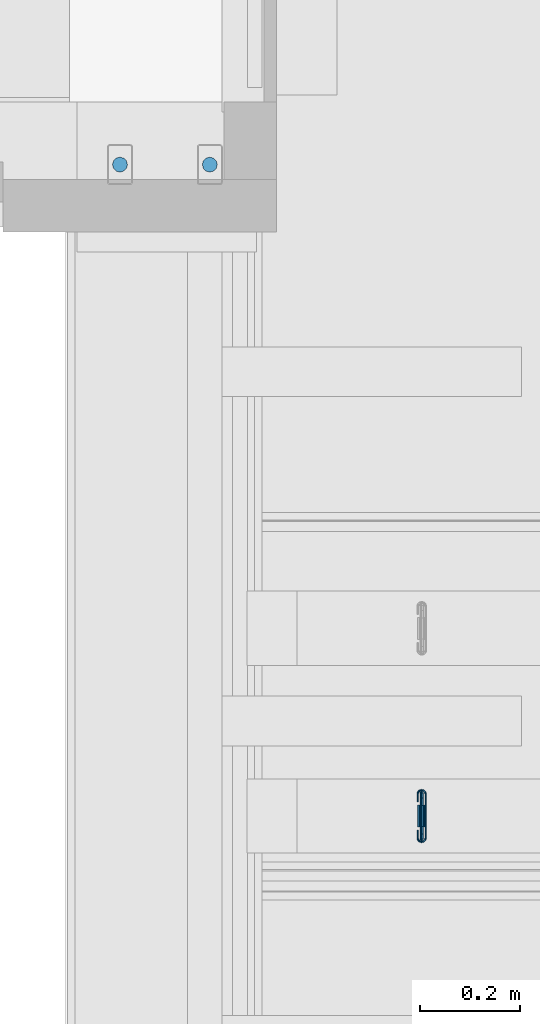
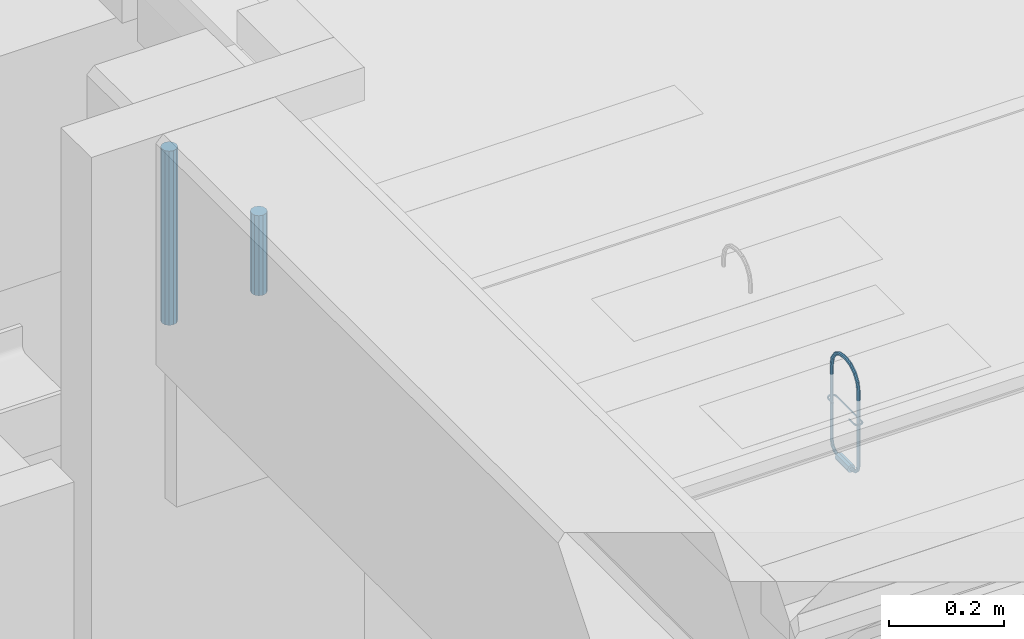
# One storey, part 145 of 230: 3 beams.
"""IFC4X3_ADD2 building model written with IfcOpenShell, lengths in millimetres."""

from ifc_helpers import new_model, si_unit, direction, origin_with_axes, place, context, subcontext, project, spatial, triangles, polygons, element, save


model = new_model("IFC4X3_ADD2")

# Units and contexts
model_context = context("Model", 3, precision=1e-05, world=origin_with_axes(), true_north=direction((0.0, 1.0)))
body_context = subcontext(model_context, "Body", "Model", "MODEL_VIEW")
ifc_project = project(units=[si_unit("LENGTHUNIT", "METRE", prefix="MILLI"), si_unit("AREAUNIT", "SQUARE_METRE"), si_unit("VOLUMEUNIT", "CUBIC_METRE"), si_unit("PLANEANGLEUNIT", "RADIAN"), si_unit("TIMEUNIT", "SECOND"), si_unit("MASSUNIT", "GRAM")], contexts=[model_context])

# Site, building, storey
site_placement = place(None, origin_with_axes())
site = spatial("IfcSite", under=ifc_project, at=site_placement, Name="Site", CompositionType="ELEMENT")
building_placement = place(site_placement, origin_with_axes())
building = spatial("IfcBuilding", under=site, at=building_placement, Name="IFC Building Story")
storey_placement = place(building_placement, origin_with_axes())
storey = spatial("IfcBuildingStorey", under=building, at=storey_placement, Name="ETAGE 00 (0)", Elevation=0.0)

# Beams
beam_1_placement = place(storey_placement, origin_with_axes())
element("IfcBeam", 1, at=beam_1_placement, inside=storey, Name="LU2", ObjectType="D7", context=body_context, shape_type="Tessellation", body=[
    triangles([(33918.16688232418, -1404.499736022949, 4036.025157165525), (33918.16688232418, -1407.999813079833, 4036.025157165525), (33915.69261474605, -1404.499736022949, 4034.999929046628), (33915.69261474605, -1407.999813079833, 4034.999929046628), (33919.19240112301, -1404.499736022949, 4038.500006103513), (33919.19240112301, -1407.999813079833, 4038.500006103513), (33918.16688232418, -1407.999813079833, 4040.974855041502), (33918.16688232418, -1404.499736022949, 4040.974855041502), (33915.69261474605, -1407.999813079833, 4042.000083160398), (33915.69261474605, -1404.499736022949, 4042.000083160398), (33913.21834716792, -1407.999813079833, 4040.974855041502), (33913.21834716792, -1404.499736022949, 4040.974855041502), (33912.19282836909, -1407.999813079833, 4038.500006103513), (33912.19282836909, -1404.499736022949, 4038.500006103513), (33913.21834716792, -1404.499736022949, 4036.025157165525), (33913.21834716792, -1407.999813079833, 4036.025157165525), (33915.69261474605, -1392.249757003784, 4038.282286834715), (33913.21834716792, -1392.762371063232, 4039.170023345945), (33915.69261474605, -1383.282135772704, 4047.250053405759), (33913.21834716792, -1384.169872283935, 4047.762522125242), (33918.16688232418, -1384.169872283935, 4047.762522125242), (33918.16688232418, -1392.762371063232, 4039.170023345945), (33919.19240112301, -1386.313200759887, 4048.999946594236), (33919.19240112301, -1393.999795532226, 4041.313497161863), (33918.16688232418, -1395.23722000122, 4043.456680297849), (33918.16688232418, -1388.456529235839, 4050.237371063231), (33915.69261474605, -1395.749688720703, 4044.34441680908), (33915.69261474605, -1389.34426574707, 4050.750130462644), (33913.21834716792, -1388.456529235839, 4050.237371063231), (33913.21834716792, -1395.23722000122, 4043.456680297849), (33912.19282836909, -1386.313200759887, 4048.999946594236), (33912.19282836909, -1393.999795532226, 4041.313497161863), (33913.21834716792, -1381.024860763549, 4059.499887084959), (33912.19282836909, -1383.499709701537, 4059.499887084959), (33915.69261474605, -1379.999777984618, 4059.499887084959), (33918.16688232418, -1381.024860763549, 4059.499887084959), (33919.19240112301, -1383.499709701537, 4059.499887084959), (33918.16688232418, -1385.974558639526, 4059.499887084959), (33915.69261474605, -1386.999786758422, 4059.499887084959), (33913.21834716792, -1385.974558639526, 4059.499887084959), (33913.21834716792, -1385.974558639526, 4218.50006561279), (33912.19282836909, -1383.499709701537, 4218.50006561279), (33913.21834716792, -1389.059399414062, 4234.008421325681), (33912.19282836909, -1386.772911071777, 4234.955456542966), (33913.21834716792, -1397.844182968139, 4247.155583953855), (33912.19282836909, -1396.094144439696, 4248.905477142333), (33913.21834716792, -1394.344105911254, 4250.65566101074), (33913.21834716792, -1384.486422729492, 4235.902491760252), (33915.69261474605, -1393.619295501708, 4251.38032608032), (33915.69261474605, -1383.539387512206, 4236.294909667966), (33918.16688232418, -1394.344105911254, 4250.65566101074), (33918.16688232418, -1384.486422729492, 4235.902491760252), (33919.19240112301, -1396.094144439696, 4248.905477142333), (33919.19240112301, -1386.772911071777, 4234.955456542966), (33918.16688232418, -1389.059399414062, 4234.008421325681), (33918.16688232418, -1397.844182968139, 4247.155583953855), (33915.69261474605, -1390.006579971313, 4233.616003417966), (33915.69261474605, -1398.568993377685, 4246.430628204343), (33915.69261474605, -1411.383763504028, 4254.993186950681), (33913.21834716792, -1410.991490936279, 4255.940222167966), (33912.19282836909, -1410.044310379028, 4258.226710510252), (33913.21834716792, -1409.097275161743, 4260.513198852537), (33915.69261474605, -1408.705002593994, 4261.460524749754), (33918.16688232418, -1409.097275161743, 4260.513198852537), (33919.19240112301, -1410.044310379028, 4258.226710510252), (33918.16688232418, -1410.991490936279, 4255.940222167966), (33918.16688232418, -1426.499701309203, 4259.025208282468), (33915.69261474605, -1426.499701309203, 4257.999980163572), (33913.21834716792, -1426.499701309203, 4259.025208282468), (33912.19282836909, -1426.499701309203, 4261.500057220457), (33913.21834716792, -1426.499701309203, 4263.974906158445), (33915.69261474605, -1426.499701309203, 4265.000134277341), (33918.16688232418, -1426.499701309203, 4263.974906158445), (33919.19240112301, -1426.499701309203, 4261.500057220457), (33919.19240112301, -1433.499710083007, 4261.500057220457), (33918.16688232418, -1433.499710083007, 4259.025208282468), (33919.19240112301, -1449.955101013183, 4258.226710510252), (33918.16688232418, -1449.008065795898, 4255.940222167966), (33919.19240112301, -1463.90541229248, 4248.905477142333), (33918.16688232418, -1462.155373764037, 4247.155583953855), (33915.69261474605, -1448.615793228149, 4254.993186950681), (33915.69261474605, -1461.430418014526, 4246.430628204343), (33913.21834716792, -1462.155373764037, 4247.155583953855), (33913.21834716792, -1449.008065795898, 4255.940222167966), (33912.19282836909, -1463.90541229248, 4248.905477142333), (33912.19282836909, -1449.955101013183, 4258.226710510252), (33913.21834716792, -1465.655305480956, 4250.65566101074), (33913.21834716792, -1450.902281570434, 4260.513198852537), (33915.69261474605, -1466.380261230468, 4251.38032608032), (33915.69261474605, -1451.294554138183, 4261.460524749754), (33918.16688232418, -1465.655305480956, 4250.65566101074), (33918.16688232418, -1450.902281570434, 4260.513198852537), (33919.19240112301, -1473.226500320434, 4234.955456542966), (33918.16688232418, -1475.512988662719, 4235.902491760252), (33918.16688232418, -1470.940157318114, 4234.008421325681), (33915.69261474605, -1469.992976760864, 4233.616003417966), (33913.21834716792, -1470.940157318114, 4234.008421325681), (33912.19282836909, -1473.226500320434, 4234.955456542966), (33913.21834716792, -1475.512988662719, 4235.902491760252), (33915.69261474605, -1476.46016921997, 4236.294909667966), (33918.16688232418, -1478.974695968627, 4218.50006561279), (33915.69261474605, -1479.999778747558, 4218.50006561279), (33919.19240112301, -1476.499701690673, 4218.50006561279), (33918.16688232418, -1474.024852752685, 4218.50006561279), (33915.69261474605, -1472.999769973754, 4218.50006561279), (33913.21834716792, -1474.024852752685, 4218.50006561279), (33912.19282836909, -1476.499701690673, 4218.50006561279), (33913.21834716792, -1478.974695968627, 4218.50006561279), (33915.69261474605, -1479.999778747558, 4059.499887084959), (33913.21834716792, -1478.974695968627, 4059.499887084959), (33915.69261474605, -1476.717420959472, 4047.250053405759), (33913.21834716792, -1475.829539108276, 4047.762522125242), (33915.69261474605, -1467.749799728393, 4038.282286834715), (33913.21834716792, -1467.237185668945, 4039.170023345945), (33918.16688232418, -1467.237185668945, 4039.170023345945), (33918.16688232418, -1475.829539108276, 4047.762522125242), (33919.19240112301, -1465.999761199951, 4041.313497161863), (33919.19240112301, -1473.686355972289, 4048.999946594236), (33918.16688232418, -1471.543027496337, 4050.237371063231), (33918.16688232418, -1464.762336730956, 4043.456680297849), (33915.69261474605, -1470.655145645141, 4050.750130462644), (33915.69261474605, -1464.249722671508, 4044.34441680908), (33913.21834716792, -1464.762336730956, 4043.456680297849), (33913.21834716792, -1471.543027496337, 4050.237371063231), (33912.19282836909, -1465.999761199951, 4041.313497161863), (33912.19282836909, -1473.686355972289, 4048.999946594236), (33913.21834716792, -1455.499820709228, 4036.025157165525), (33912.19282836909, -1455.499820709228, 4038.500006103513), (33915.69261474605, -1455.499820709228, 4034.999929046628), (33918.16688232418, -1455.499820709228, 4036.025157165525), (33919.19240112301, -1455.499820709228, 4038.500006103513), (33918.16688232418, -1455.499820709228, 4040.974855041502), (33915.69261474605, -1455.499820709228, 4042.000083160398), (33913.21834716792, -1455.499820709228, 4040.974855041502), (33913.21834716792, -1451.999743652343, 4040.974855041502), (33912.19282836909, -1451.999743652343, 4038.500006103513), (33915.69261474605, -1451.999743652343, 4042.000083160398), (33918.16688232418, -1451.999743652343, 4040.974855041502), (33919.19240112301, -1451.999743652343, 4038.500006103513), (33918.16688232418, -1451.999743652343, 4036.025157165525), (33915.69261474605, -1451.999743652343, 4034.999929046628), (33913.21834716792, -1451.999743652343, 4036.025157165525), (33907.6931030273, -1451.999743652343, 4038.500006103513), (33915.69261474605, -1451.999743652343, 4030.4999130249), (33921.34808349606, -1451.999743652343, 4032.843083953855), (33923.6921264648, -1451.999743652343, 4038.500006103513), (33910.0348205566, -1451.999743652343, 4032.843083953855), (33921.34808349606, -1451.999743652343, 4044.156928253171), (33915.69261474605, -1451.999743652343, 4046.500099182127), (33910.0348205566, -1451.999743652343, 4044.156928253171), (33921.34808349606, -1407.999813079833, 4032.843083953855), (33915.69261474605, -1407.999813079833, 4030.4999130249), (33923.6921264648, -1407.999813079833, 4038.500006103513), (33921.34808349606, -1407.999813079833, 4044.156928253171), (33915.69261474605, -1407.999813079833, 4046.500099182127), (33910.0348205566, -1407.999813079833, 4044.156928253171), (33907.6931030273, -1407.999813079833, 4038.500006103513), (33910.0348205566, -1407.999813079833, 4032.843083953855), (33912.19282836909, -1476.499701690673, 4059.499887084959), (33913.21834716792, -1474.024852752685, 4059.499887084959), (33915.69261474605, -1472.999769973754, 4059.499887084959), (33918.16688232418, -1474.024852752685, 4059.499887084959), (33919.19240112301, -1476.499701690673, 4059.499887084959), (33918.16688232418, -1478.974695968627, 4059.499887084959), (33918.16688232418, -1433.499710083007, 4263.974906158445), (33915.69261474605, -1433.499710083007, 4265.000134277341), (33913.21834716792, -1433.499710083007, 4263.974906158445), (33912.19282836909, -1433.499710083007, 4261.500057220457), (33913.21834716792, -1433.499710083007, 4259.025208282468), (33915.69261474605, -1433.499710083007, 4257.999980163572), (33915.69261474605, -1386.999786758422, 4218.50006561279), (33918.16688232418, -1385.974558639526, 4218.50006561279), (33919.19240112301, -1383.499709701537, 4218.50006561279), (33918.16688232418, -1381.024860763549, 4218.50006561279), (33915.69261474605, -1379.999777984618, 4218.50006561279), (33913.21834716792, -1381.024860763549, 4218.50006561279), (33909.5929870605, -1385.939822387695, 4149.999886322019), (33909.5929870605, -1401.999743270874, 4149.999886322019), (33908.64188232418, -1385.939822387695, 4148.354637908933), (33908.64188232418, -1401.999743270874, 4148.354637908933), (33910.38828735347, -1382.969800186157, 4149.999886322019), (33909.56508178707, -1382.49468383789, 4148.354637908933), (33912.08818359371, -1379.972890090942, 4148.354637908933), (33912.56257324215, -1380.795514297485, 4149.999886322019), (33912.08818359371, -1379.972890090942, 4151.645425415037), (33909.56508178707, -1382.49468383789, 4151.645425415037), (33915.53215942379, -1379.049690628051, 4151.645425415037), (33915.53215942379, -1377.149806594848, 4151.645425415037), (33911.13707885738, -1378.327350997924, 4151.645425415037), (33906.74199829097, -1474.059734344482, 4151.645425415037), (33909.56508178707, -1477.504727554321, 4151.645425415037), (33908.64188232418, -1474.059734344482, 4151.645425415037), (33906.74199829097, -1457.999813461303, 4151.645425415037), (33907.92099609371, -1478.454814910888, 4151.645425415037), (33908.64188232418, -1457.999813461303, 4151.645425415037), (33911.13707885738, -1481.672060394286, 4151.645425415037), (33915.53215942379, -1480.94972076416, 4151.645425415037), (33912.08818359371, -1480.026666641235, 4151.645425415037), (33915.53215942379, -1482.849750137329, 4151.645425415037), (33906.74199829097, -1385.939822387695, 4151.645425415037), (33907.92099609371, -1381.544741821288, 4151.645425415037), (33906.74199829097, -1401.999743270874, 4151.645425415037), (33908.64188232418, -1385.939822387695, 4151.645425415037), (33908.64188232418, -1401.999743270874, 4151.645425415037), (33919.2970458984, -1480.026666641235, 4151.645425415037), (33920.24815063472, -1481.672060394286, 4151.645425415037), (33923.46423339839, -1478.454814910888, 4151.645425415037), (33915.85307006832, -1482.849750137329, 4151.645425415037), (33915.85307006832, -1480.94972076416, 4151.645425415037), (33921.82014770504, -1477.504727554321, 4151.645425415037), (33924.64323120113, -1474.059734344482, 4151.645425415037), (33922.74334716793, -1474.059734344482, 4151.645425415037), (33922.74334716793, -1385.939822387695, 4151.645425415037), (33920.24815063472, -1378.327350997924, 4151.645425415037), (33919.2970458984, -1379.972890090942, 4151.645425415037), (33923.46423339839, -1381.544741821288, 4151.645425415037), (33915.85307006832, -1377.149806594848, 4151.645425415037), (33915.85307006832, -1379.049690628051, 4151.645425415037), (33924.64323120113, -1385.939822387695, 4151.645425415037), (33921.82014770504, -1382.49468383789, 4151.645425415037), (33906.74199829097, -1457.999813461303, 4148.354637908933), (33908.64188232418, -1457.999813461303, 4148.354637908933), (33909.5929870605, -1457.999813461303, 4149.999886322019), (33905.7932189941, -1457.999813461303, 4149.999886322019), (33909.5929870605, -1474.059734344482, 4149.999886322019), (33908.64188232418, -1474.059734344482, 4148.354637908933), (33911.13707885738, -1481.672060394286, 4148.354637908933), (33915.53215942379, -1480.94972076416, 4148.354637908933), (33915.53215942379, -1482.849750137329, 4148.354637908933), (33906.74199829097, -1385.939822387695, 4148.354637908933), (33906.74199829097, -1401.999743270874, 4148.354637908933), (33907.92099609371, -1381.544741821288, 4148.354637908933), (33911.13707885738, -1378.327350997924, 4148.354637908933), (33915.53215942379, -1379.049690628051, 4148.354637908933), (33915.53215942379, -1377.149806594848, 4148.354637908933), (33906.74199829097, -1474.059734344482, 4148.354637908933), (33909.56508178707, -1477.504727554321, 4148.354637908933), (33907.92099609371, -1478.454814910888, 4148.354637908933), (33912.08818359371, -1480.026666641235, 4148.354637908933), (33919.2970458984, -1379.972890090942, 4148.354637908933), (33920.24815063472, -1378.327350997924, 4148.354637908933), (33923.46423339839, -1381.544741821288, 4148.354637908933), (33915.85307006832, -1377.149806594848, 4148.354637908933), (33915.85307006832, -1379.049690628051, 4148.354637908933), (33921.82014770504, -1382.49468383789, 4148.354637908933), (33924.64323120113, -1385.939822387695, 4148.354637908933), (33922.74334716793, -1385.939822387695, 4148.354637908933), (33922.74334716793, -1474.059734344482, 4148.354637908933), (33920.24815063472, -1481.672060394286, 4148.354637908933), (33919.2970458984, -1480.026666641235, 4148.354637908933), (33923.46423339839, -1478.454814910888, 4148.354637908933), (33915.85307006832, -1482.849750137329, 4148.354637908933), (33915.85307006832, -1480.94972076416, 4148.354637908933), (33924.64323120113, -1474.059734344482, 4148.354637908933), (33921.82014770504, -1477.504727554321, 4148.354637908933), (33905.7932189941, -1474.059734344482, 4149.999886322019), (33907.0977905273, -1478.929785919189, 4149.999886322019), (33910.66268920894, -1482.494829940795, 4149.999886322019), (33915.53215942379, -1483.79969215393, 4149.999886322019), (33915.85307006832, -1483.79969215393, 4149.999886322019), (33920.72254028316, -1482.494829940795, 4149.999886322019), (33924.28743896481, -1478.929785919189, 4149.999886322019), (33925.59201049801, -1474.059734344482, 4149.999886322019), (33925.59201049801, -1385.939822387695, 4149.999886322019), (33924.28743896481, -1381.069770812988, 4149.999886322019), (33920.72254028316, -1377.504726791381, 4149.999886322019), (33915.85307006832, -1376.199719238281, 4149.999886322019), (33915.53215942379, -1376.199719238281, 4149.999886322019), (33910.66268920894, -1377.504726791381, 4149.999886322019), (33907.0977905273, -1381.069770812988, 4149.999886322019), (33905.7932189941, -1385.939822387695, 4149.999886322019), (33905.7932189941, -1401.999743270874, 4149.999886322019), (33915.53215942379, -1379.999777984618, 4149.999886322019), (33915.85307006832, -1379.999777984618, 4149.999886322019), (33918.82265624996, -1380.795514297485, 4149.999886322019), (33920.99694213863, -1382.969800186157, 4149.999886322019), (33921.7922424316, -1385.939822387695, 4149.999886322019), (33921.7922424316, -1474.059734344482, 4149.999886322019), (33920.99694213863, -1477.02975654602, 4149.999886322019), (33918.82265624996, -1479.203897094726, 4149.999886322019), (33915.85307006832, -1479.999778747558, 4149.999886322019), (33915.53215942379, -1479.999778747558, 4149.999886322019), (33912.56257324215, -1479.203897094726, 4149.999886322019), (33910.38828735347, -1477.02975654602, 4149.999886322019)], [[1, 2, 3], [4, 3, 2], [5, 6, 1], [2, 1, 6], [6, 5, 7], [8, 7, 5], [7, 8, 9], [10, 9, 8], [9, 10, 11], [12, 11, 10], [11, 12, 13], [14, 13, 12], [15, 16, 14], [13, 14, 16], [3, 4, 15], [16, 15, 4], [17, 3, 18], [15, 18, 3], [19, 17, 20], [18, 20, 17], [21, 22, 17], [17, 19, 21], [23, 24, 22], [22, 21, 23], [24, 23, 25], [26, 25, 23], [25, 26, 27], [28, 27, 26], [27, 28, 29], [29, 30, 27], [30, 29, 31], [31, 32, 30], [20, 18, 31], [32, 31, 18], [33, 20, 34], [31, 34, 20], [35, 19, 33], [20, 33, 19], [36, 21, 19], [19, 35, 36], [37, 23, 21], [21, 36, 37], [23, 37, 26], [38, 26, 37], [26, 38, 28], [39, 28, 38], [28, 39, 40], [40, 29, 28], [29, 40, 34], [34, 31, 29], [40, 41, 42], [42, 34, 40], [41, 43, 44], [44, 42, 41], [43, 45, 46], [46, 44, 43], [47, 48, 46], [44, 46, 48], [49, 50, 47], [48, 47, 50], [51, 52, 50], [50, 49, 51], [53, 54, 52], [52, 51, 53], [54, 53, 55], [56, 55, 53], [55, 56, 57], [58, 57, 56], [57, 58, 45], [45, 43, 57], [58, 59, 60], [60, 45, 58], [45, 60, 61], [61, 46, 45], [62, 47, 61], [46, 61, 47], [63, 49, 62], [47, 62, 49], [64, 51, 49], [49, 63, 64], [65, 53, 51], [51, 64, 65], [53, 65, 56], [66, 56, 65], [56, 66, 58], [59, 58, 66], [66, 67, 59], [68, 59, 67], [59, 68, 69], [69, 60, 59], [60, 69, 70], [70, 61, 60], [71, 62, 70], [61, 70, 62], [72, 63, 71], [62, 71, 63], [73, 64, 63], [63, 72, 73], [74, 65, 64], [64, 73, 74], [65, 74, 66], [67, 66, 74], [74, 75, 67], [76, 67, 75], [75, 77, 76], [78, 76, 77], [77, 79, 78], [80, 78, 79], [78, 80, 81], [82, 81, 80], [81, 82, 83], [83, 84, 81], [84, 83, 85], [85, 86, 84], [87, 88, 85], [86, 85, 88], [89, 90, 87], [88, 87, 90], [91, 92, 90], [90, 89, 91], [79, 77, 92], [92, 91, 79], [93, 79, 91], [91, 94, 93], [79, 93, 80], [95, 80, 93], [80, 95, 82], [96, 82, 95], [82, 96, 97], [97, 83, 82], [83, 97, 98], [98, 85, 83], [99, 87, 98], [85, 98, 87], [100, 89, 99], [87, 99, 89], [94, 91, 89], [89, 100, 94], [101, 94, 100], [100, 102, 101], [103, 93, 94], [94, 101, 103], [93, 103, 95], [104, 95, 103], [95, 104, 96], [105, 96, 104], [96, 105, 106], [106, 97, 96], [97, 106, 107], [107, 98, 97], [108, 99, 107], [98, 107, 99], [102, 100, 108], [99, 108, 100], [109, 102, 110], [108, 110, 102], [111, 109, 112], [110, 112, 109], [113, 111, 114], [112, 114, 111], [115, 116, 111], [111, 113, 115], [117, 118, 116], [116, 115, 117], [118, 117, 119], [120, 119, 117], [119, 120, 121], [122, 121, 120], [121, 122, 123], [123, 124, 121], [124, 123, 125], [125, 126, 124], [114, 112, 125], [126, 125, 112], [127, 114, 128], [125, 128, 114], [129, 113, 127], [114, 127, 113], [130, 115, 113], [113, 129, 130], [131, 117, 115], [115, 130, 131], [117, 131, 120], [132, 120, 131], [120, 132, 122], [133, 122, 132], [122, 133, 134], [134, 123, 122], [123, 134, 128], [128, 125, 123], [134, 135, 136], [136, 128, 134], [133, 137, 134], [135, 134, 137], [132, 138, 137], [137, 133, 132], [131, 139, 132], [138, 132, 139], [139, 131, 130], [130, 140, 139], [140, 130, 141], [129, 141, 130], [141, 129, 127], [127, 142, 141], [142, 127, 136], [128, 136, 127], [142, 136, 143], [140, 141, 144], [144, 145, 140], [146, 139, 140], [146, 140, 145], [147, 141, 142], [141, 147, 144], [142, 143, 147], [148, 139, 146], [138, 149, 137], [138, 139, 148], [148, 149, 138], [150, 143, 136], [136, 135, 150], [137, 150, 135], [150, 137, 149], [151, 145, 152], [144, 152, 145], [153, 146, 151], [145, 151, 146], [146, 153, 148], [154, 148, 153], [148, 154, 149], [155, 149, 154], [149, 155, 150], [156, 150, 155], [150, 156, 143], [157, 143, 156], [158, 147, 157], [143, 157, 147], [152, 144, 158], [147, 158, 144], [11, 13, 157], [7, 9, 155], [155, 154, 7], [153, 6, 7], [153, 7, 154], [156, 9, 11], [9, 156, 155], [11, 157, 156], [151, 6, 153], [2, 152, 4], [2, 6, 151], [151, 152, 2], [158, 157, 13], [13, 16, 158], [4, 158, 16], [158, 4, 152], [112, 110, 126], [159, 126, 110], [160, 124, 126], [126, 159, 160], [161, 121, 124], [124, 160, 161], [162, 119, 161], [121, 161, 119], [163, 118, 162], [119, 162, 118], [118, 163, 164], [164, 116, 118], [116, 164, 109], [109, 111, 116], [164, 101, 102], [102, 109, 164], [163, 103, 164], [101, 164, 103], [103, 163, 104], [162, 104, 163], [104, 162, 105], [161, 105, 162], [105, 161, 160], [160, 106, 105], [106, 160, 159], [159, 107, 106], [110, 108, 107], [107, 159, 110], [77, 75, 165], [165, 92, 77], [92, 165, 166], [166, 90, 92], [90, 166, 88], [167, 88, 166], [88, 167, 86], [168, 86, 167], [169, 84, 86], [86, 168, 169], [170, 81, 84], [84, 169, 170], [76, 78, 170], [81, 170, 78], [67, 76, 68], [170, 68, 76], [68, 170, 169], [169, 69, 68], [69, 169, 168], [168, 70, 69], [167, 71, 70], [70, 168, 167], [166, 72, 71], [71, 167, 166], [165, 73, 166], [72, 166, 73], [75, 74, 165], [73, 165, 74], [171, 57, 43], [43, 41, 171], [172, 55, 171], [57, 171, 55], [173, 54, 172], [55, 172, 54], [54, 173, 174], [174, 52, 54], [52, 174, 175], [175, 50, 52], [50, 175, 48], [176, 48, 175], [48, 176, 44], [42, 44, 176], [176, 33, 34], [34, 42, 176], [175, 35, 176], [33, 176, 35], [174, 36, 35], [35, 175, 174], [173, 37, 174], [36, 174, 37], [37, 173, 38], [172, 38, 173], [38, 172, 39], [171, 39, 172], [39, 171, 41], [41, 40, 39], [18, 15, 32], [14, 32, 15], [12, 30, 32], [32, 14, 12], [10, 27, 30], [30, 12, 10], [8, 25, 10], [27, 10, 25], [5, 24, 8], [25, 8, 24], [24, 5, 1], [1, 22, 24], [22, 1, 3], [3, 17, 22], [177, 178, 179], [180, 179, 178], [181, 177, 179], [179, 182, 181], [183, 184, 181], [181, 182, 183], [184, 185, 181], [186, 181, 185], [187, 188, 189], [190, 191, 192], [190, 192, 193], [190, 194, 191], [195, 193, 192], [196, 197, 198], [198, 191, 194], [199, 197, 196], [196, 198, 194], [200, 186, 201], [202, 203, 200], [204, 203, 202], [200, 203, 186], [185, 189, 201], [201, 186, 185], [189, 185, 187], [205, 206, 207], [197, 199, 208], [208, 209, 197], [209, 206, 205], [206, 209, 208], [210, 207, 211], [207, 210, 205], [212, 211, 213], [211, 212, 210], [214, 215, 216], [217, 188, 187], [187, 218, 217], [218, 215, 214], [214, 217, 218], [213, 219, 220], [219, 213, 211], [220, 216, 215], [216, 220, 219], [195, 221, 193], [222, 195, 223], [193, 221, 224], [195, 222, 221], [223, 225, 226], [226, 222, 223], [227, 228, 229], [230, 182, 179], [230, 179, 231], [230, 232, 182], [180, 231, 179], [233, 234, 183], [183, 182, 232], [235, 234, 233], [233, 183, 232], [236, 237, 238], [221, 226, 236], [222, 226, 221], [236, 226, 237], [239, 227, 238], [238, 237, 239], [227, 239, 228], [240, 241, 242], [243, 234, 235], [243, 244, 234], [244, 243, 241], [240, 244, 241], [245, 242, 246], [242, 245, 240], [247, 246, 248], [246, 247, 245], [249, 250, 251], [252, 229, 228], [228, 253, 252], [253, 250, 249], [249, 252, 253], [248, 254, 255], [254, 248, 246], [255, 251, 250], [251, 255, 254], [221, 236, 256], [256, 224, 221], [190, 193, 256], [224, 256, 193], [257, 194, 256], [190, 256, 194], [238, 257, 256], [256, 236, 238], [227, 258, 238], [257, 238, 258], [258, 196, 194], [194, 257, 258], [259, 199, 196], [196, 258, 259], [260, 208, 259], [199, 259, 208], [261, 206, 260], [208, 260, 206], [249, 261, 260], [260, 252, 249], [252, 260, 259], [259, 229, 252], [229, 259, 227], [258, 227, 259], [251, 262, 261], [261, 249, 251], [262, 207, 261], [206, 261, 207], [263, 211, 207], [207, 262, 263], [263, 264, 211], [219, 211, 264], [219, 264, 216], [265, 216, 264], [264, 246, 242], [242, 265, 264], [264, 263, 254], [254, 246, 264], [254, 263, 251], [262, 251, 263], [265, 242, 266], [241, 266, 242], [216, 265, 266], [266, 214, 216], [214, 266, 267], [267, 217, 214], [217, 267, 268], [268, 188, 217], [188, 268, 189], [269, 189, 268], [268, 235, 233], [233, 269, 268], [267, 243, 268], [235, 268, 243], [266, 241, 267], [243, 267, 241], [269, 233, 232], [232, 270, 269], [189, 269, 201], [270, 201, 269], [201, 270, 271], [271, 200, 201], [202, 200, 272], [271, 272, 200], [202, 180, 204], [231, 202, 272], [204, 180, 178], [202, 231, 180], [230, 231, 271], [272, 271, 231], [270, 232, 271], [230, 271, 232], [178, 177, 203], [203, 204, 178], [177, 181, 203], [186, 203, 181], [234, 273, 184], [184, 183, 234], [273, 187, 184], [185, 184, 187], [274, 218, 273], [187, 273, 218], [275, 215, 218], [218, 274, 275], [276, 220, 215], [215, 275, 276], [213, 220, 276], [276, 277, 213], [212, 213, 277], [277, 278, 212], [210, 212, 279], [278, 279, 212], [210, 279, 205], [280, 205, 279], [205, 280, 209], [281, 209, 280], [209, 281, 197], [282, 197, 281], [197, 282, 283], [283, 198, 197], [198, 283, 284], [284, 191, 198], [284, 225, 192], [192, 191, 284], [225, 223, 192], [195, 192, 223], [225, 284, 226], [237, 226, 284], [283, 239, 284], [237, 284, 239], [282, 228, 283], [239, 283, 228], [281, 253, 228], [228, 282, 281], [280, 250, 253], [253, 281, 280], [279, 255, 250], [250, 280, 279], [248, 255, 279], [279, 278, 248], [247, 248, 277], [278, 277, 248], [245, 247, 276], [277, 276, 247], [245, 276, 240], [275, 240, 276], [240, 275, 244], [274, 244, 275], [244, 274, 273], [273, 234, 244]]),
])
beam_2_placement = place(storey_placement, origin_with_axes())
element("IfcBeam", 2, at=beam_2_placement, inside=storey, Name="SD11", ObjectType="D30", context=body_context, shape_type="Tessellation", body=[
    polygons([(33296.1882547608, -125.0000362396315, 4130.0), (33296.1882547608, -125.0000362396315, 3760.0), (33298.19787370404, -132.5000362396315, 3760.0), (33298.19787370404, -132.5000362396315, 4130.0), (33303.6882547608, -137.9904172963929, 3760.0), (33303.68825476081, -137.9904172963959, 4130.0), (33311.1882547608, -140.000036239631, 3760.0), (33311.1882547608, -140.000036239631, 4130.0), (33318.6882547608, -137.9904172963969, 3760.0), (33318.6882547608, -137.990417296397, 4130.0), (33324.17863581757, -132.5000362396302, 3760.0), (33324.17863581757, -132.5000362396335, 4130.0), (33326.1882547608, -125.0000362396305, 3760.0), (33326.1882547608, -125.0000362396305, 4130.0), (33324.17863581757, -117.5000362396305, 3760.0), (33324.17863581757, -117.5000362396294, 4130.0), (33318.6882547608, -112.0096551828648, 3760.0), (33318.6882547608, -112.0096551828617, 4130.0), (33311.1882547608, -110.000036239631, 3760.0), (33311.1882547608, -110.000036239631, 4130.0), (33303.6882547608, -112.0096551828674, 3760.0), (33303.6882547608, -112.0096551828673, 4130.0), (33298.19787370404, -117.5000362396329, 3760.0), (33298.19787370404, -117.5000362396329, 4130.0)], [[[1, 2, 3, 4]], [[4, 3, 5, 6]], [[6, 5, 7, 8]], [[8, 7, 9, 10]], [[10, 9, 11, 12]], [[12, 11, 13, 14]], [[14, 13, 15, 16]], [[16, 15, 17, 18]], [[18, 17, 19, 20]], [[20, 19, 21, 22]], [[22, 21, 23, 24]], [[24, 23, 2, 1]], [[4, 6, 8]], [[4, 8, 10]], [[4, 10, 12]], [[4, 12, 14]], [[4, 14, 16]], [[4, 16, 18]], [[4, 18, 20]], [[4, 20, 22]], [[4, 22, 24]], [[4, 24, 1]], [[2, 23, 21]], [[2, 21, 19]], [[2, 19, 17]], [[2, 17, 15]], [[2, 15, 13]], [[2, 13, 11]], [[2, 11, 9]], [[2, 9, 7]], [[2, 7, 5]], [[2, 5, 3]]]),
])
beam_3_placement = place(storey_placement, origin_with_axes())
element("IfcBeam", 3, at=beam_3_placement, inside=storey, Name="SD11", ObjectType="D30", context=body_context, shape_type="Tessellation", body=[
    polygons([(33476.1882547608, -125.0000362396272, 3930.0), (33476.1882547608, -125.0000362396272, 3760.0), (33478.19787370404, -132.5000362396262, 3760.0), (33478.19787370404, -132.5000362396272, 3930.0), (33483.6882547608, -137.9904172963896, 3760.0), (33483.68825476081, -137.9904172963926, 3930.0), (33491.1882547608, -140.00003623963, 3760.0), (33491.1882547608, -140.00003623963, 3930.0), (33498.6882547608, -137.9904172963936, 3760.0), (33498.6882547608, -137.9904172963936, 3930.0), (33504.17863581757, -132.5000362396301, 3760.0), (33504.17863581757, -132.5000362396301, 3930.0), (33506.1882547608, -125.0000362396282, 3760.0), (33506.1882547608, -125.0000362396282, 3930.0), (33504.17863581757, -117.5000362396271, 3760.0), (33504.17863581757, -117.5000362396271, 3930.0), (33498.6882547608, -112.0096551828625, 3760.0), (33498.6882547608, -112.0096551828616, 3930.0), (33491.1882547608, -110.00003623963, 3760.0), (33491.1882547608, -110.00003623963, 3930.0), (33483.6882547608, -112.009655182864, 3760.0), (33483.6882547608, -112.009655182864, 3930.0), (33478.19787370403, -117.5000362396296, 3760.0), (33478.19787370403, -117.5000362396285, 3930.0)], [[[1, 2, 3, 4]], [[4, 3, 5, 6]], [[6, 5, 7, 8]], [[8, 7, 9, 10]], [[10, 9, 11, 12]], [[12, 11, 13, 14]], [[14, 13, 15, 16]], [[16, 15, 17, 18]], [[18, 17, 19, 20]], [[20, 19, 21, 22]], [[22, 21, 23, 24]], [[24, 23, 2, 1]], [[4, 6, 8]], [[4, 8, 10]], [[4, 10, 12]], [[4, 12, 14]], [[4, 14, 16]], [[4, 16, 18]], [[4, 18, 20]], [[4, 20, 22]], [[4, 22, 24]], [[4, 24, 1]], [[2, 23, 21]], [[2, 21, 19]], [[2, 19, 17]], [[2, 17, 15]], [[2, 15, 13]], [[2, 13, 11]], [[2, 11, 9]], [[2, 9, 7]], [[2, 7, 5]], [[2, 5, 3]]]),
])

save(model, "model.ifc")
